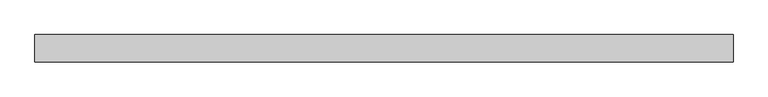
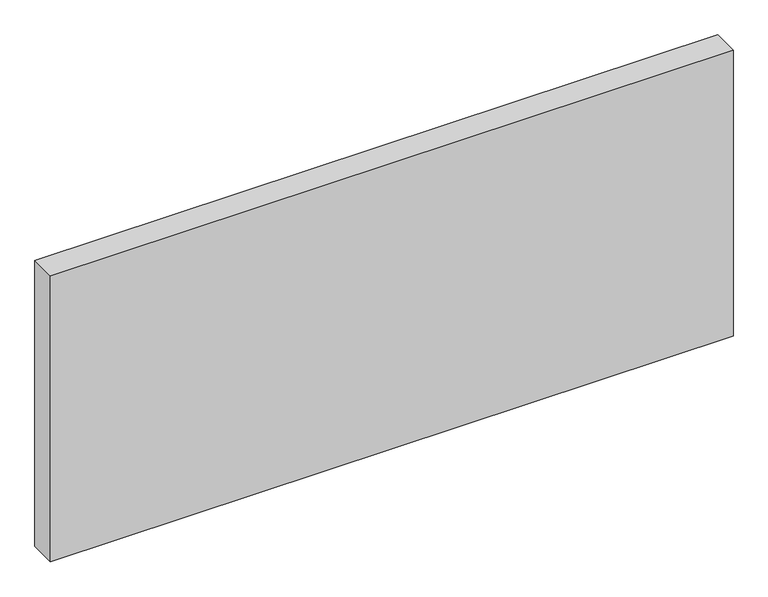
"""IFC4 building model written with IfcOpenShell, lengths in millimetres: plate geometry, 系统嵌板 : 玻璃."""

from ifc_helpers import new_model, si_unit, origin, origin_with_axes, place, context, project, spatial, polyline, outline, extrude, source, transform, mapped, element, save


def plate_a1f4ba17(model_context):
    return source(origin(), model_context, "Body", "SweptSolid", [
        extrude(outline(polyline([(762.5, -30.0), (-762.5, -30.0), (-762.5, 30.0), (762.5, 30.0), (762.5, -30.0)])), origin_with_axes(), (0.0, 0.0, 1.0), 675.0),
    ])


if __name__ == "__main__":
    model = new_model("IFC4")
    model_context = context("Model", 3, world=origin())
    ifc_project = project(units=[si_unit("LENGTHUNIT", "METRE", prefix="MILLI")], contexts=[model_context])
    site = spatial("IfcSite", under=ifc_project)
    building = spatial("IfcBuilding", under=site)
    placement = place(None, origin())
    plate_shape = plate_a1f4ba17(model_context)
    element("IfcPlate", 1, ObjectType="系统嵌板 : 玻璃", at=placement, inside=building, context=model_context, shape_type="MappedRepresentation", body=[
        mapped(plate_shape, transform((0.0, 0.0, 0.0), x_axis=(1.0, 0.0, 0.0), y_axis=(0.0, 1.0, 0.0), z_axis=(0.0, 0.0, 1.0))),
    ])
    save(model, "model.ifc")
